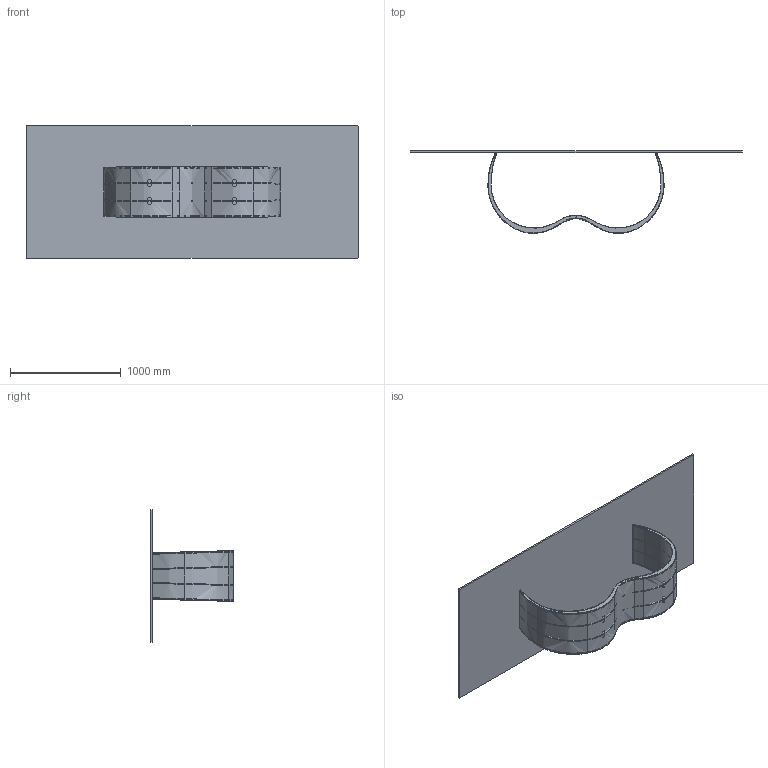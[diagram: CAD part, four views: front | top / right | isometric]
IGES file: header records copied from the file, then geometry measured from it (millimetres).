
Start section: SolidWorks IGES file using analytic representation for surfaces
Global section: file name: Y:\eforma\TECNICO\SOLIDWORKS\E-FORMA\1-TAVOLI\ALISEI 240-300\02 parts\AI24G_Alisei_300x120_Glass Rectangular.IGS; native system: SolidWorks 2022; preprocessor: SolidWorks 2022; author: eforma.tech; date: 240801.145130; units: millimetre
Bounding box: 3000 x 746 x 1200 mm (x, y, z)
Volume: 61471791 mm3; surface area: 13006603.8 mm2
Topology: 17 solids, 17 shells, 879 faces, 2475 edges, 1630 vertices
Faces by surface type: bspline 397, plane 340, revolution 142
